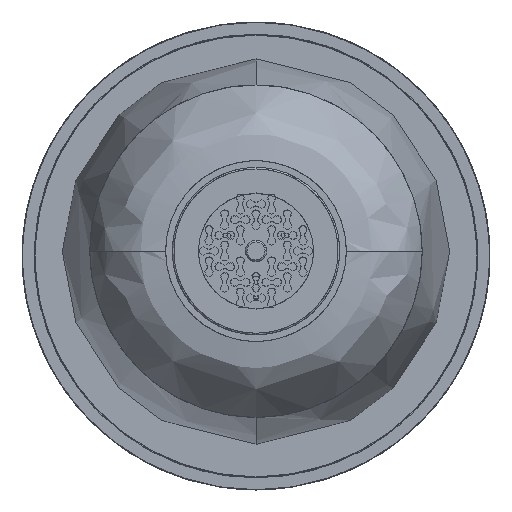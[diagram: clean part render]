
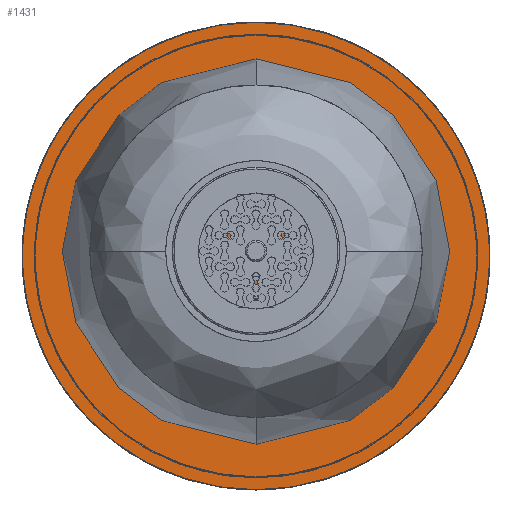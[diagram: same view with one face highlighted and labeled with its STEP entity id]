
A CAD part, top view. The second image highlights one B-rep face of the part: STEP entity #1431.
In plain terms, the highlighted planar face has unit normal (0, 0, 1) as drawn and (0, 1, 0) by its records, which use the part's own axes.
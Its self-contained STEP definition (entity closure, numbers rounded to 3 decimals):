
#97=FACE_BOUND('',#2212,.T.);
#197=PLANE('',#11527);
#1431=ADVANCED_FACE('',(#1818,#97),#197,.T.);
#1818=FACE_OUTER_BOUND('',#2211,.T.);
#2211=EDGE_LOOP('',(#2828,#2829));
#2212=EDGE_LOOP('',(#2830,#2831));
#2828=ORIENTED_EDGE('',*,*,#4858,.T.);
#2829=ORIENTED_EDGE('',*,*,#4859,.T.);
#2830=ORIENTED_EDGE('',*,*,#4861,.T.);
#2831=ORIENTED_EDGE('',*,*,#4860,.T.);
#4858=EDGE_CURVE('',#8918,#8919,#6828,.T.);
#4859=EDGE_CURVE('',#8919,#8918,#6829,.T.);
#4860=EDGE_CURVE('',#8920,#8921,#6830,.T.);
#4861=EDGE_CURVE('',#8921,#8920,#6831,.T.);
#6828=(
BOUNDED_CURVE()
B_SPLINE_CURVE(2,(#13910,#13911,#13912,#13913,#13914),.UNSPECIFIED.,.F.,
 .F.)
B_SPLINE_CURVE_WITH_KNOTS((3,2,3),(0.,284.6,569.2),.UNSPECIFIED.)
CURVE()
GEOMETRIC_REPRESENTATION_ITEM()
RATIONAL_B_SPLINE_CURVE((1.,0.707,1.,0.707,1.))
REPRESENTATION_ITEM('')
);
#6829=(
BOUNDED_CURVE()
B_SPLINE_CURVE(2,(#13915,#13916,#13917,#13918,#13919),.UNSPECIFIED.,.F.,
 .F.)
B_SPLINE_CURVE_WITH_KNOTS((3,2,3),(0.,284.6,569.2),.UNSPECIFIED.)
CURVE()
GEOMETRIC_REPRESENTATION_ITEM()
RATIONAL_B_SPLINE_CURVE((1.,0.707,1.,0.707,1.))
REPRESENTATION_ITEM('')
);
#6830=(
BOUNDED_CURVE()
B_SPLINE_CURVE(2,(#13920,#13921,#13922,#13923,#13924),.UNSPECIFIED.,.F.,
 .F.)
B_SPLINE_CURVE_WITH_KNOTS((3,2,3),(0.,6.6,13.2),
 .UNSPECIFIED.)
CURVE()
GEOMETRIC_REPRESENTATION_ITEM()
RATIONAL_B_SPLINE_CURVE((1.,0.707,1.,0.707,1.))
REPRESENTATION_ITEM('')
);
#6831=(
BOUNDED_CURVE()
B_SPLINE_CURVE(2,(#13925,#13926,#13927,#13928,#13929),.UNSPECIFIED.,.F.,
 .F.)
B_SPLINE_CURVE_WITH_KNOTS((3,2,3),(0.,6.6,13.2),
 .UNSPECIFIED.)
CURVE()
GEOMETRIC_REPRESENTATION_ITEM()
RATIONAL_B_SPLINE_CURVE((1.,0.707,1.,0.707,1.))
REPRESENTATION_ITEM('')
);
#8918=VERTEX_POINT('',#13906);
#8919=VERTEX_POINT('',#13907);
#8920=VERTEX_POINT('',#13908);
#8921=VERTEX_POINT('',#13909);
#11527=AXIS2_PLACEMENT_3D('',#13905,#11616,$);
#11616=DIRECTION('',(0.,1.,0.));
#13905=CARTESIAN_POINT('',(-170.76,3.,-170.76));
#13906=CARTESIAN_POINT('',(0.,3.,-142.3));
#13907=CARTESIAN_POINT('',(0.,3.,142.3));
#13908=CARTESIAN_POINT('',(0.,3.,3.3));
#13909=CARTESIAN_POINT('',(0.,3.,-3.3));
#13910=CARTESIAN_POINT('',(0.,3.,-142.3));
#13911=CARTESIAN_POINT('',(-142.3,3.,-142.3));
#13912=CARTESIAN_POINT('',(-142.3,3.,0.));
#13913=CARTESIAN_POINT('',(-142.3,3.,142.3));
#13914=CARTESIAN_POINT('',(0.,3.,142.3));
#13915=CARTESIAN_POINT('',(0.,3.,142.3));
#13916=CARTESIAN_POINT('',(142.3,3.,142.3));
#13917=CARTESIAN_POINT('',(142.3,3.,0.));
#13918=CARTESIAN_POINT('',(142.3,3.,-142.3));
#13919=CARTESIAN_POINT('',(0.,3.,-142.3));
#13920=CARTESIAN_POINT('',(0.,3.,3.3));
#13921=CARTESIAN_POINT('',(-3.3,3.,3.3));
#13922=CARTESIAN_POINT('',(-3.3,3.,0.));
#13923=CARTESIAN_POINT('',(-3.3,3.,-3.3));
#13924=CARTESIAN_POINT('',(0.,3.,-3.3));
#13925=CARTESIAN_POINT('',(0.,3.,-3.3));
#13926=CARTESIAN_POINT('',(3.3,3.,-3.3));
#13927=CARTESIAN_POINT('',(3.3,3.,0.));
#13928=CARTESIAN_POINT('',(3.3,3.,3.3));
#13929=CARTESIAN_POINT('',(0.,3.,3.3));
